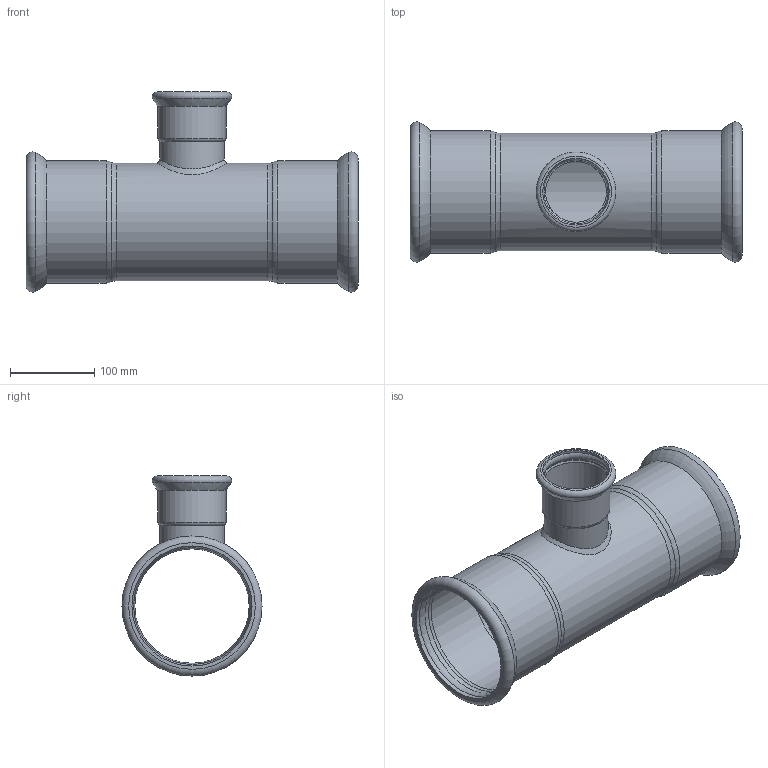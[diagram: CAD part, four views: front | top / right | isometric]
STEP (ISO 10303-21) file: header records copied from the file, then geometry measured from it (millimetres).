
FILE_DESCRIPTION(/* description */ (''),/* implementation_level */ '2;1');
FILE_NAME(/* name */ 'R:\Disegni3D_Area_Manager\Inoxpres.step\192_INOXPRES\192139076_Inoxpres.stp',/* time_stamp */ '2022-10-12T11:12:28+02:00',/* author */ ('Vault'),/* organization */ ('Raccorderie metalliche s.p.a. '),/* preprocessor_version */ 'ST-DEVELOPER v18.1',/* originating_system */ 'Autodesk Inventor 2020',/* authorisation */ 'Raccorderie metalliche s.p.a. ');
FILE_SCHEMA (('AUTOMOTIVE_DESIGN { 1 0 10303 214 3 1 1 }'));
Length unit declared in the file: millimetre
Products named in the file (1): 192139076_Inoxpres
Bounding box: 394 x 166.27 x 237.54 mm (x, y, z)
Volume: 571815.4 mm3; surface area: 400857.5 mm2
Topology: 1 solids, 1 shells, 45 faces, 155 edges, 112 vertices
Faces by surface type: torus 21, cylinder 16, bspline 4, cone 2, plane 2
Full cylindrical faces by diameter (mm): 72.1 x1, 76.1 x1, 76.7 x1, 79 x2, 80.7 x1, 135.7 x1, 139.7 x1, 141 x2, 142.5 x4, 145 x2
Entity records: 2654 total; most frequent: CARTESIAN_POINT 1153, DIRECTION 351, ORIENTED_EDGE 310, AXIS2_PLACEMENT_3D 165, EDGE_CURVE 155, CIRCLE 123, VERTEX_POINT 112, EDGE_LOOP 49
